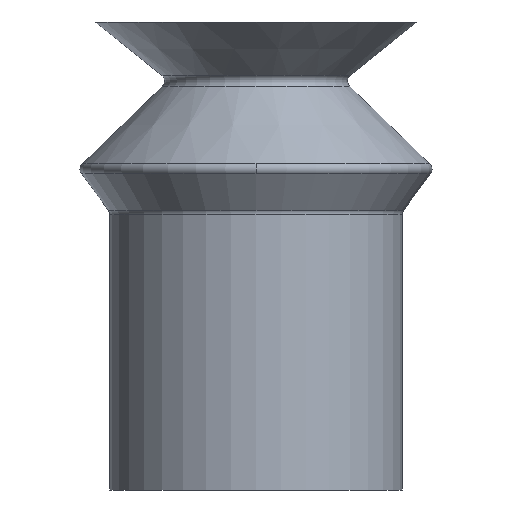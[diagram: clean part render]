
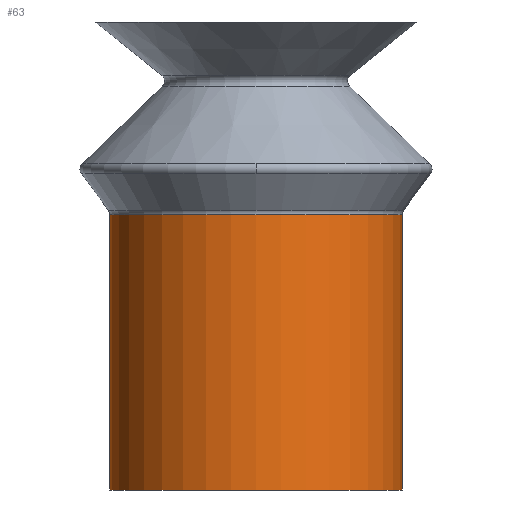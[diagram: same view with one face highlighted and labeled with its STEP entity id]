
A CAD part, front view. The second image highlights one B-rep face of the part: STEP entity #63.
In plain terms, the highlighted cylindrical face has radius 5 mm (diameter 10 mm), a full revolution.
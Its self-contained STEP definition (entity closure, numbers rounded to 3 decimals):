
#6 = EDGE_CURVE ( 'NONE', #197, #197, #332, .T. ) ;
#16 = DIRECTION ( 'NONE',  ( 0., 0., 1. ) ) ;
#20 = CARTESIAN_POINT ( 'NONE',  ( 0., 0., 3.007 ) ) ;
#32 = EDGE_CURVE ( 'NONE', #261, #261, #366, .T. ) ;
#63 = ADVANCED_FACE ( 'NONE', ( #327, #157 ), #377, .T. ) ;
#89 = CARTESIAN_POINT ( 'NONE',  ( 5., 0., -16. ) ) ;
#111 = AXIS2_PLACEMENT_3D ( 'NONE', #282, #16, #434 ) ;
#153 = CARTESIAN_POINT ( 'NONE',  ( 0., 0., -6.582 ) ) ;
#155 = DIRECTION ( 'NONE',  ( 1., 0., 0. ) ) ;
#157 = FACE_OUTER_BOUND ( 'NONE', #255, .T. ) ;
#175 = AXIS2_PLACEMENT_3D ( 'NONE', #20, #198, #155 ) ;
#192 = DIRECTION ( 'NONE',  ( 1., 0., 0. ) ) ;
#197 = VERTEX_POINT ( 'NONE', #89 ) ;
#198 = DIRECTION ( 'NONE',  ( 0., 0., 1. ) ) ;
#209 = EDGE_LOOP ( 'NONE', ( #286 ) ) ;
#220 = ORIENTED_EDGE ( 'NONE', *, *, #6, .T. ) ;
#255 = EDGE_LOOP ( 'NONE', ( #220 ) ) ;
#261 = VERTEX_POINT ( 'NONE', #298 ) ;
#282 = CARTESIAN_POINT ( 'NONE',  ( 0., 0., -16. ) ) ;
#286 = ORIENTED_EDGE ( 'NONE', *, *, #32, .T. ) ;
#287 = DIRECTION ( 'NONE',  ( 0., 0., -1. ) ) ;
#298 = CARTESIAN_POINT ( 'NONE',  ( 5., 0., -6.582 ) ) ;
#327 = FACE_OUTER_BOUND ( 'NONE', #209, .T. ) ;
#332 = CIRCLE ( 'NONE', #111, 5. ) ;
#366 = CIRCLE ( 'NONE', #421, 5. ) ;
#377 = CYLINDRICAL_SURFACE ( 'NONE', #175, 5. ) ;
#421 = AXIS2_PLACEMENT_3D ( 'NONE', #153, #287, #192 ) ;
#434 = DIRECTION ( 'NONE',  ( 1., 0., 0. ) ) ;
